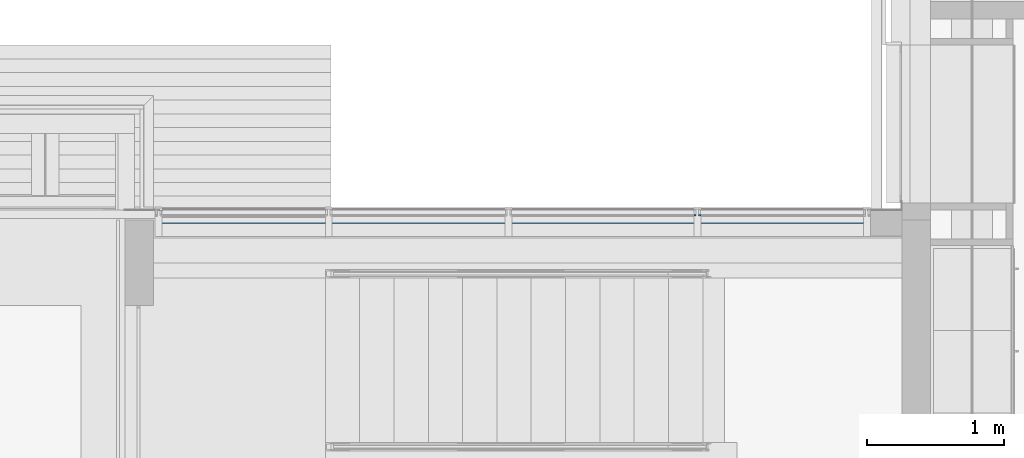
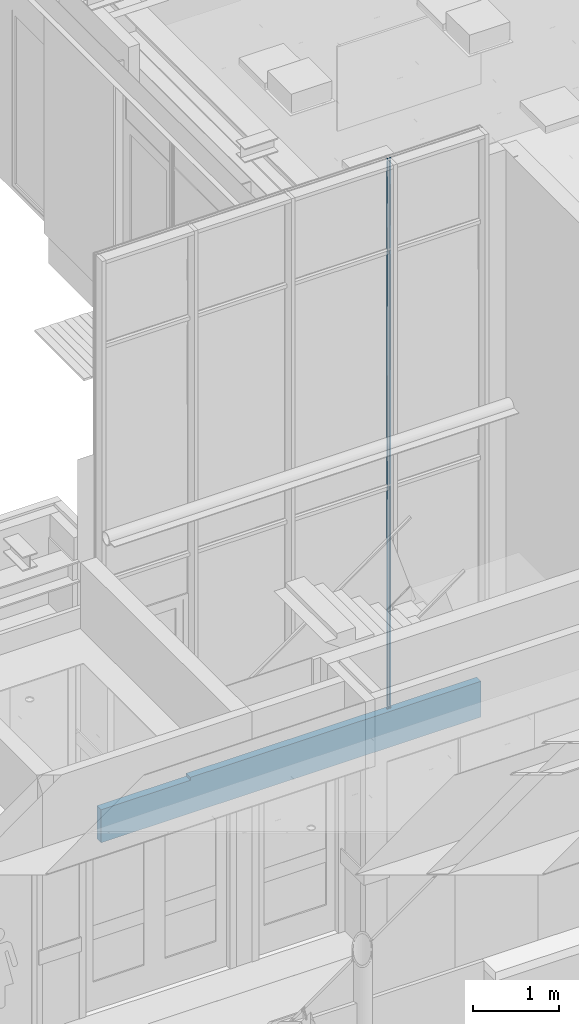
# One storey, part 106 of 347: 3 building element parts, 1 opening, 2 elements without a shape of their own.
"""IFC2X3 building model written with IfcOpenShell, lengths in millimetres."""

from ifc_helpers import new_model, entity, si_unit, converted_unit, derived_unit, money_unit, direction, frame, origin_with_axes, place, context, subcontext, project, spatial, faceted_brep, material, type_object, element, aggregate, save


model = new_model("IFC2X3")

# Units and contexts
model_context = context("Model", 3, precision=0.01, world=origin_with_axes(), true_north=direction((0.0, 1.0)))
plan_context = context("Plan", 3, precision=0.01, world=origin_with_axes(), true_north=direction((0.0, 1.0)))
body_context = subcontext(model_context, "Body", "Model", "MODEL_VIEW")
ifc_project = project(units=[si_unit("LENGTHUNIT", "METRE", prefix="MILLI"), si_unit("AREAUNIT", "SQUARE_METRE"), si_unit("VOLUMEUNIT", "CUBIC_METRE"), converted_unit("PLANEANGLEUNIT", "DEGREE", entity("IfcPlaneAngleMeasure", 0.0174532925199), si_unit("PLANEANGLEUNIT", "RADIAN"), dimensions=[0, 0, 0, 0, 0, 0, 0]), money_unit("EUR"), converted_unit("TIMEUNIT", "Year", entity("IfcTimeMeasure", 31556926.0), si_unit("TIMEUNIT", "SECOND"), dimensions=[0, 0, 1, 0, 0, 0, 0]), si_unit("MASSUNIT", "GRAM", prefix="KILO"), si_unit("THERMODYNAMICTEMPERATUREUNIT", "DEGREE_CELSIUS"), si_unit("LUMINOUSINTENSITYUNIT", "LUMEN"), si_unit("ENERGYUNIT", "JOULE", prefix="MEGA"), derived_unit("THERMALCONDUCTANCEUNIT", [(si_unit("POWERUNIT", "WATT"), 1), (si_unit("LENGTHUNIT", "METRE"), -1), (si_unit("THERMODYNAMICTEMPERATUREUNIT", "KELVIN"), -1)]), derived_unit("SPECIFICHEATCAPACITYUNIT", [(si_unit("ENERGYUNIT", "JOULE"), 1), (si_unit("MASSUNIT", "GRAM", prefix="KILO"), -1), (si_unit("THERMODYNAMICTEMPERATUREUNIT", "KELVIN"), -1)]), derived_unit("MASSDENSITYUNIT", [(si_unit("MASSUNIT", "GRAM", prefix="KILO"), 1), (si_unit("VOLUMEUNIT", "CUBIC_METRE"), -1)])], contexts=[model_context, plan_context])

# Site, building, storey
site_placement = place(None, origin_with_axes())
site = spatial("IfcSite", under=ifc_project, at=site_placement, Name="Site", CompositionType="ELEMENT")
building_placement = place(site_placement, origin_with_axes())
building = spatial("IfcBuilding", under=site, at=building_placement, Name="Naam gebouw", CompositionType="ELEMENT")
storey_placement = place(building_placement, origin_with_axes())
storey = spatial("IfcBuildingStorey", under=building, at=storey_placement, Name="begane grond", CompositionType="ELEMENT", Elevation=0.0)

# Proxy, opening, building element part
building_element_proxy_type = type_object("IfcBuildingElementProxyType", Name="31 vliesgevel drsn 212 x 8350", PredefinedType="NOTDEFINED")
proxy_placement = place(storey_placement, frame((18665.0, 18595.0, 0.0), z_axis=(0.0, 0.0, 1.0), x_axis=(1.0, 0.0, 0.0)))
proxy = element("IfcBuildingElementProxy", 1, at=proxy_placement, inside=storey, type_object=building_element_proxy_type, Name="42_53 wandtegels keramisch")
opening_placement = place(proxy_placement, frame((600.000000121, 0.0, -40.0), z_axis=(0.0, 0.0, 1.0), x_axis=(1.0, 0.0, 0.0)))
element("IfcOpeningElement", 2, at=opening_placement, cuts=proxy, Name="32_merk-C1", context=body_context, shape_type="Brep", body=[
    faceted_brep([(-601.999999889, 1541.00000358, 2640.0), (-601.999999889, 1541.00000358, 0.0), (-601.999999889, -1965.00001073, 0.0), (-601.999999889, -1965.00001073, 2640.0), (601.999999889, 1541.00000358, 2640.0), (601.999999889, 1541.00000358, 0.0), (601.999999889, -1965.00001073, 0.0), (601.999999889, -1965.00001073, 2640.0)], [[[0, 1, 2, 3]], [[0, 4, 5, 1]], [[1, 5, 6, 2]], [[3, 2, 6, 7]], [[4, 0, 3, 7]], [[5, 4, 7, 6]]]),
])
ifc_material_1 = material(Name="Isolatie - EPS")
building_element_part_1_placement = place(proxy_placement, origin_with_axes())
building_element_part_1 = element("IfcBuildingElementPart", 3, at=building_element_part_1_placement, material=ifc_material_1, Name="Isolatie - EPS", context=body_context, shape_type="Brep", body=[
    faceted_brep([(0.0, 0.0, -40.0), (1202.00000001, 0.0, -40.0), (1202.00000001, 0.0, 0.0), (5119.99999993, 0.0, 0.0), (5119.99999993, 0.0, -510.0), (0.0, 0.0, -510.0), (0.0, -100.0, -40.0), (1202.00000001, -100.0, -40.0), (1202.00000001, -34.9999998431, 2.68221178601e-06), (1202.00000001, -100.0, 0.0), (5119.99999993, -34.9999998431, 2.68221178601e-06), (5119.99999993, -100.0, 0.0), (5119.99999993, -100.0, -510.0), (0.0, -100.0, -510.0)], [[[0, 1, 2, 3, 4, 5]], [[1, 0, 6, 7]], [[8, 2, 1, 7, 9]], [[2, 8, 10, 3]], [[10, 11, 12, 4, 3]], [[4, 12, 13, 5]], [[6, 0, 5, 13]], [[7, 6, 13, 12, 11, 9]], [[8, 9, 11, 10]]]),
])
aggregate(proxy, [building_element_part_1])

# Column, building element parts
column_type = type_object("IfcColumnType", Name="31 vliesgevelstijl 50 x 215", PredefinedType="COLUMN")
column_placement = place(storey_placement, frame((22575.0, 18400.0, 0.0), z_axis=(0.0, 0.0, 1.0), x_axis=(1.0, 0.0, 0.0)))
column = element("IfcColumn", 4, at=column_placement, inside=storey, type_object=column_type, Name="28_kolom ø 275mm", ObjectType="COLUMN")
ifc_material_2 = material(Name="Membraan - rubber")
building_element_part_2_placement = place(column_placement, origin_with_axes())
building_element_part_2 = element("IfcBuildingElementPart", 5, at=building_element_part_2_placement, material=ifc_material_2, Name="Membraan - rubber", context=body_context, shape_type="Brep", body=[
    faceted_brep([(25.0000002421, 150.000000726, 7840.0), (25.0000002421, 150.00000155, 7824.99999994), (25.0000002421, 160.000000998, 7824.99999994), (25.0000002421, 160.000000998, 7840.0), (10.0000001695, 150.000000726, 7840.0), (10.0000001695, 150.00000155, 7824.99999994), (10.0000001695, 160.000000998, 7824.99999994), (23.000000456, 160.000000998, 7824.99999994), (23.000000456, 160.000000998, 7840.0), (10.0000001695, 160.000000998, 7840.0)], [[[0, 1, 2, 3]], [[4, 5, 1, 0]], [[6, 7, 2, 1, 5]], [[3, 2, 7, 8]], [[3, 8, 9, 4, 0]], [[9, 6, 5, 4]], [[8, 7, 6, 9]]]),
    faceted_brep([(23.000000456, 160.000000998, 14.9999997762), (25.0000002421, 160.000000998, 14.9999997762), (25.0000002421, 160.000000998, 0.0), (23.000000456, 160.000000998, 0.0), (25.0000002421, 150.000000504, 14.9999997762), (10.0000001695, 160.000000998, 14.9999997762), (10.0000001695, 150.000000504, 14.9999997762), (25.0000002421, 150.000000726, 0.0), (10.0000001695, 150.000000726, 0.0), (10.0000001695, 160.000000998, 0.0)], [[[0, 1, 2, 3]], [[4, 1, 0, 5, 6]], [[1, 4, 7, 2]], [[8, 9, 3, 2, 7]], [[5, 0, 3, 9]], [[6, 5, 9, 8]], [[4, 6, 8, 7]]]),
    faceted_brep([(23.000000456, 160.000000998, 3165.00000048), (25.0000002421, 160.000000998, 3165.00000048), (25.0000002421, 160.000000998, 35.0000005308), (23.000000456, 160.000000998, 35.0000005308), (25.0000002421, 149.999999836, 3165.00000048), (10.0000001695, 160.000000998, 3165.00000048), (10.0000001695, 149.999999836, 3165.00000048), (25.0000002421, 150.000000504, 35.0000005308), (10.0000001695, 150.000000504, 35.0000005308), (10.0000001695, 160.000000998, 35.0000005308)], [[[0, 1, 2, 3]], [[4, 1, 0, 5, 6]], [[1, 4, 7, 2]], [[3, 2, 7, 8, 9]], [[5, 0, 3, 9]], [[6, 5, 9, 8]], [[4, 6, 8, 7]]]),
    faceted_brep([(25.0000002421, 149.999999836, 6545.00000058), (25.0000002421, 160.000000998, 6545.00000058), (25.0000002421, 160.000000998, 7804.99999952), (25.0000002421, 150.00000155, 7804.99999952), (23.000000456, 160.000000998, 6545.00000058), (10.0000001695, 149.999999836, 6545.00000058), (10.0000001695, 160.000000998, 6545.00000058), (23.000000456, 160.000000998, 7804.99999952), (10.0000001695, 160.000000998, 7804.99999952), (10.0000001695, 150.00000155, 7804.99999952)], [[[0, 1, 2, 3]], [[4, 1, 0, 5, 6]], [[1, 4, 7, 2]], [[3, 2, 7, 8, 9]], [[5, 0, 3, 9]], [[6, 5, 9, 8]], [[4, 6, 8, 7]]]),
    faceted_brep([(25.0000002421, 149.999999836, 3185.00000058), (25.0000002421, 160.000000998, 3185.00000058), (25.0000002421, 160.000000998, 6525.00000048), (25.0000002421, 149.999999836, 6525.00000048), (23.000000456, 160.000000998, 3185.00000058), (10.0000001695, 149.999999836, 3185.00000058), (10.0000001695, 160.000000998, 3185.00000058), (23.000000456, 160.000000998, 6525.00000048), (10.0000001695, 160.000000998, 6525.00000048), (10.0000001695, 149.999999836, 6525.00000048)], [[[0, 1, 2, 3]], [[4, 1, 0, 5, 6]], [[1, 4, 7, 2]], [[3, 2, 7, 8, 9]], [[5, 0, 3, 9]], [[6, 5, 9, 8]], [[4, 6, 8, 7]]]),
])
building_element_part_3_placement = place(column_placement, origin_with_axes())
building_element_part_3 = element("IfcBuildingElementPart", 6, at=building_element_part_3_placement, material=ifc_material_2, Name="Membraan - rubber", context=body_context, shape_type="Brep", body=[
    faceted_brep([(-9.99999992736, 150.000000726, 7840.0), (-9.99999992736, 150.00000155, 7824.99999994), (-9.99999992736, 160.000000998, 7824.99999994), (-9.99999992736, 160.000000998, 7840.0), (-25.0, 150.000000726, 7840.0), (-25.0, 150.00000155, 7824.99999994), (-25.0, 160.000000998, 7824.99999994), (-23.0000002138, 160.000000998, 7824.99999994), (-23.0000002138, 160.000000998, 7840.0), (-25.0, 160.000000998, 7840.0)], [[[0, 1, 2, 3]], [[4, 5, 1, 0]], [[6, 7, 2, 1, 5]], [[3, 2, 7, 8]], [[3, 8, 9, 4, 0]], [[9, 6, 5, 4]], [[8, 7, 6, 9]]]),
    faceted_brep([(-23.0000002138, 160.000000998, 14.9999997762), (-9.99999992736, 160.000000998, 14.9999997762), (-9.99999992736, 160.000000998, 0.0), (-23.0000002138, 160.000000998, 0.0), (-9.99999992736, 150.000000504, 14.9999997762), (-25.0, 160.000000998, 14.9999997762), (-25.0, 150.000000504, 14.9999997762), (-9.99999992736, 150.000000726, 0.0), (-25.0, 150.000000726, 0.0), (-25.0, 160.000000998, 0.0)], [[[0, 1, 2, 3]], [[4, 1, 0, 5, 6]], [[1, 4, 7, 2]], [[8, 9, 3, 2, 7]], [[5, 0, 3, 9]], [[6, 5, 9, 8]], [[4, 6, 8, 7]]]),
    faceted_brep([(-23.0000002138, 160.000000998, 3165.00000048), (-9.99999992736, 160.000000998, 3165.00000048), (-9.99999992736, 160.000000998, 35.0000005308), (-23.0000002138, 160.000000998, 35.0000005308), (-9.99999992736, 149.999999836, 3165.00000048), (-25.0, 160.000000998, 3165.00000048), (-25.0, 149.999999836, 3165.00000048), (-9.99999992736, 150.000000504, 35.0000005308), (-25.0, 150.000000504, 35.0000005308), (-25.0, 160.000000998, 35.0000005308)], [[[0, 1, 2, 3]], [[4, 1, 0, 5, 6]], [[1, 4, 7, 2]], [[3, 2, 7, 8, 9]], [[5, 0, 3, 9]], [[6, 5, 9, 8]], [[4, 6, 8, 7]]]),
    faceted_brep([(-9.99999992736, 149.999999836, 6545.00000058), (-9.99999992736, 160.000000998, 6545.00000058), (-9.99999992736, 160.000000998, 7804.99999952), (-9.99999992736, 150.00000155, 7804.99999952), (-23.0000002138, 160.000000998, 6545.00000058), (-25.0, 149.999999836, 6545.00000058), (-25.0, 160.000000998, 6545.00000058), (-23.0000002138, 160.000000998, 7804.99999952), (-25.0, 160.000000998, 7804.99999952), (-25.0, 150.00000155, 7804.99999952)], [[[0, 1, 2, 3]], [[4, 1, 0, 5, 6]], [[1, 4, 7, 2]], [[3, 2, 7, 8, 9]], [[5, 0, 3, 9]], [[6, 5, 9, 8]], [[4, 6, 8, 7]]]),
    faceted_brep([(-9.99999992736, 149.999999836, 3185.00000058), (-9.99999992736, 160.000000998, 3185.00000058), (-9.99999992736, 160.000000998, 6525.00000048), (-9.99999992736, 149.999999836, 6525.00000048), (-23.0000002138, 160.000000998, 3185.00000058), (-25.0, 149.999999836, 3185.00000058), (-25.0, 160.000000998, 3185.00000058), (-23.0000002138, 160.000000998, 6525.00000048), (-25.0, 160.000000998, 6525.00000048), (-25.0, 149.999999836, 6525.00000048)], [[[0, 1, 2, 3]], [[4, 1, 0, 5, 6]], [[1, 4, 7, 2]], [[3, 2, 7, 8, 9]], [[5, 0, 3, 9]], [[6, 5, 9, 8]], [[4, 6, 8, 7]]]),
])
aggregate(column, [building_element_part_2, building_element_part_3])

save(model, "model.ifc")
